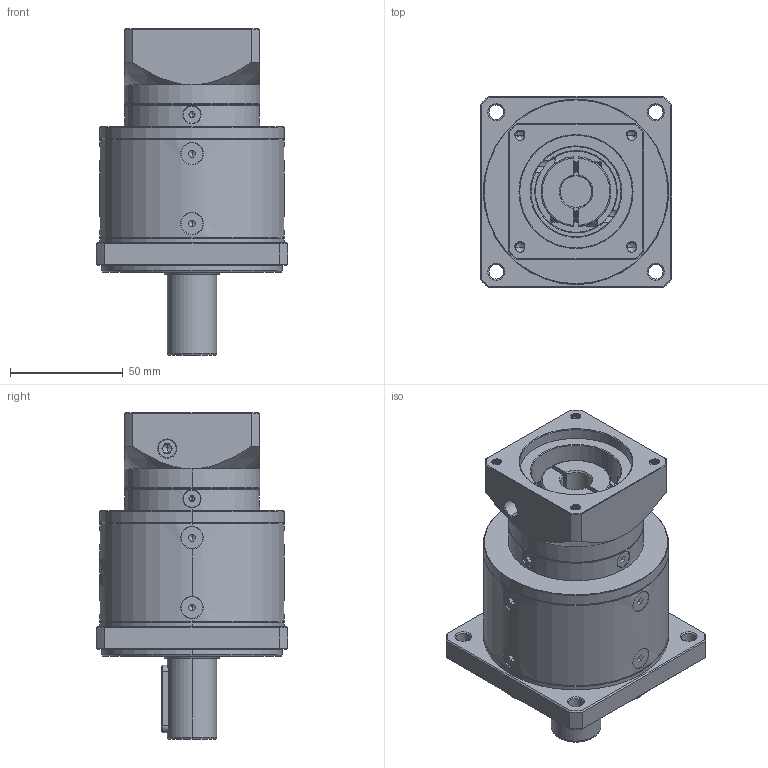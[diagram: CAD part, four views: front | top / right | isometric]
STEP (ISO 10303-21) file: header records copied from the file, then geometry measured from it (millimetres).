
FILE_DESCRIPTION (( 'STEP AP214' ), '1' );
FILE_NAME ('ZF080-D22-L2-P2-14-50-70-M5.step', '2023-08-19T06:55:55', ( '' ), ( '' ), 'SwSTEP 2.0', 'SolidWorks 2016', '' );
FILE_SCHEMA (( 'AUTOMOTIVE_DESIGN' ));
Length unit declared in the file: millimetre
Products named in the file (1): ZF080-D22-L2-P2-14-50-70-M5
Bounding box: 85 x 85 x 145 mm (x, y, z)
Volume: 471191.7 mm3; surface area: 67990.3 mm2
Topology: 18 solids, 18 shells, 2293 faces, 6042 edges, 3850 vertices
Faces by surface type: plane 1123, cylinder 407, bspline 394, cone 327, torus 42
Entity records: 122093 total; most frequent: CARTESIAN_POINT 45140, ORIENTED_EDGE 12008, DIRECTION 9027, EDGE_CURVE 6004, VERTEX_POINT 3850, LINE 3189, VECTOR 3189, AXIS2_PLACEMENT_3D 2919
